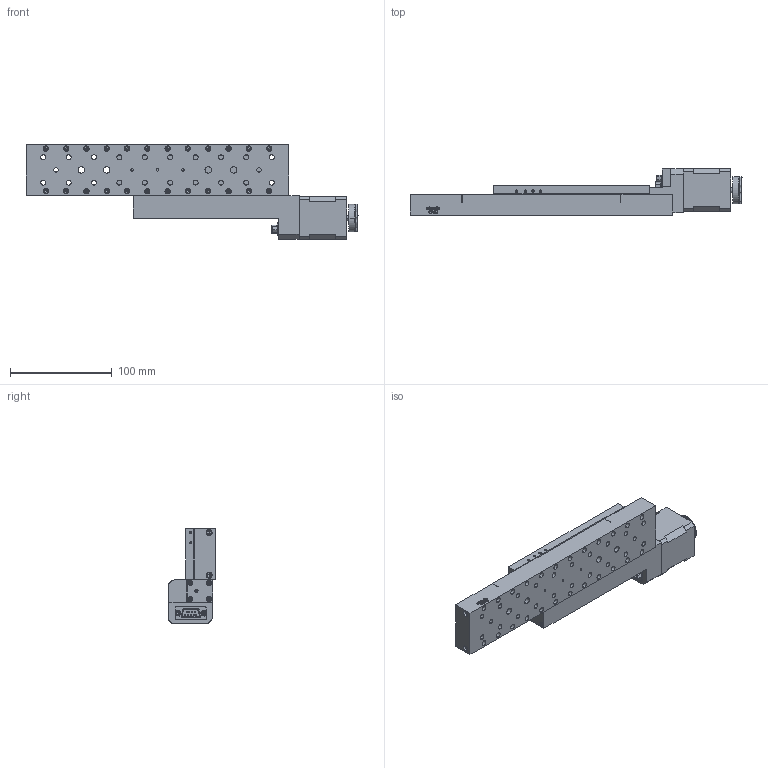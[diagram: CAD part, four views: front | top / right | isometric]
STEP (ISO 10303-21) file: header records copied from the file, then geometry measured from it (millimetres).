
FILE_DESCRIPTION (( 'STEP AP203' ), '1' );
FILE_NAME ('8MT177-100.STEP', '2008-04-29T10:31:09', ( 'STANDA' ), ( '' ), 'SwSTEP 2.0', 'SolidWorks 2003240', '' );
FILE_SCHEMA (( 'CONFIG_CONTROL_DESIGN' ));
Products named in the file (1): 8MT177-100
Bounding box: 327 x 45.6 x 93.5 mm (x, y, z)
Volume: 463601.8 mm3; surface area: 120731.1 mm2
Topology: 1 solids, 52 shells, 2617 faces, 6808 edges, 4329 vertices
Faces by surface type: plane 1064, cylinder 1045, bspline 261, cone 247
Entity records: 90296 total; most frequent: CARTESIAN_POINT 27807, ORIENTED_EDGE 13334, DIRECTION 12506, EDGE_CURVE 6667, AXIS2_PLACEMENT_3D 4731, VERTEX_POINT 4329, LINE 3044, VECTOR 3044
